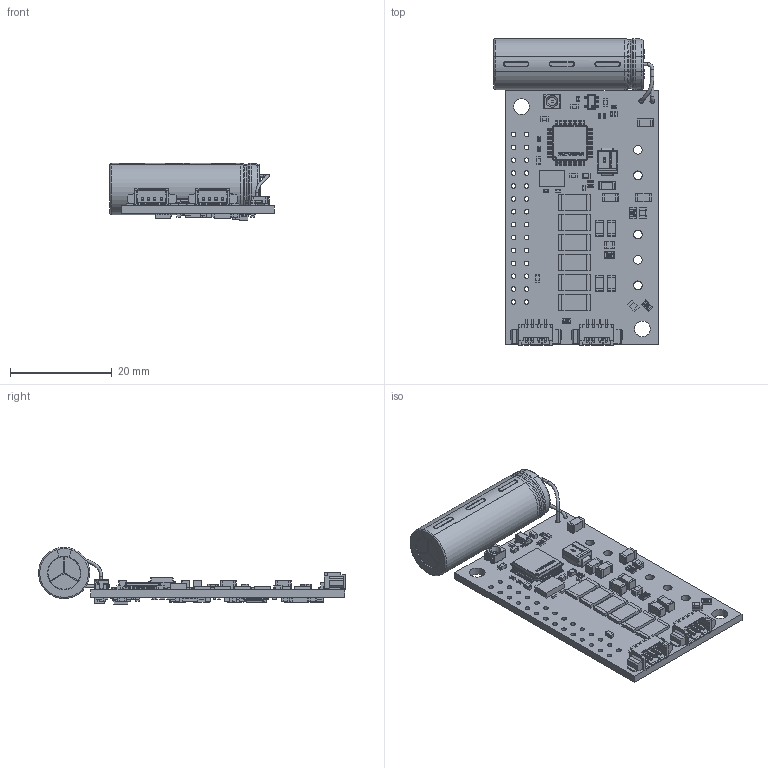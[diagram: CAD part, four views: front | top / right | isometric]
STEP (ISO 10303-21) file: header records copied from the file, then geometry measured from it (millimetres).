
FILE_DESCRIPTION(('Open CASCADE Model'),'2;1');
FILE_NAME('Open CASCADE Shape Model','2023-10-25T15:47:10',('Author'),( 'Open CASCADE'),'Open CASCADE STEP processor 6.8','Open CASCADE 6.8' ,'Unknown');
FILE_SCHEMA(('AUTOMOTIVE_DESIGN { 1 0 10303 214 1 1 1 1 }'));
Length unit declared in the file: millimetre
Products named in the file (160): PCB; Board; VD1; User_Library-Osram_Led_PLCC4-1; D8; User_Library-DIOM5539X24; C34; User_Library-SMD_CAPACITOR0402; L2; User_Library-1239AS-H; C33; C24; User_Library-SMD_CAPACITOR0603; R5; 6122573440; Extruded; 6122573248; C13; R45; User_Library-RESC2012X05N; R44; R43; RESC1005X04N; R42; R41; R37; R36; R35; R34; R33; R32; R31; R19; Q6; 6122572672; Cylinder; 6122572480; Q5; Q4; L1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
Assembly tree (280 placements, depth 4):
  PCB
    Board
    VD1
      User_Library-Osram_Led_PLCC4-1
    D8
      User_Library-DIOM5539X24
    C34
      User_Library-SMD_CAPACITOR0402
    L2
      User_Library-1239AS-H
    C33
      User_Library-SMD_CAPACITOR0402
    C24
      User_Library-SMD_CAPACITOR0603
    R5
      6122573440
        Extruded
      6122573248  x2
        Extruded
    C13
      User_Library-SMD_CAPACITOR0603
    R45
      User_Library-RESC2012X05N
    R44
      User_Library-RESC2012X05N
    R43
      RESC1005X04N
    R42
      RESC1005X04N
    R41
      RESC1005X04N
    R37
      RESC1005X04N
    R36
      RESC1005X04N
    R35
      RESC1005X04N
    R34
      RESC1005X04N
    R33
      RESC1005X04N
    R32
      RESC1005X04N
    R31
      RESC1005X04N
    R19
      RESC1005X04N
    Q6
      6122572672
        Cylinder
      6122572480
        Extruded
    Q5
      6122572672
        Cylinder
      6122572480
        Extruded
    Q4
      6122572672
        Cylinder
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Bounding box: 32.35 x 60.47 x 11.29 mm (x, y, z)
Volume: 5142.1 mm3; surface area: 7175.1 mm2
Topology: 238 solids, 238 shells, 10180 faces, 27686 edges, 17710 vertices
Faces by surface type: plane 4902, cylinder 3071, bspline 1680, sphere 346, torus 157, cone 24
Full cylindrical faces by diameter (mm): 0.6 x9, 0.8 x8, 0.9 x30, 1.7 x5, 3.1 x2
Entity records: 141017 total; most frequent: CARTESIAN_POINT 34613, ORIENTED_EDGE 18258, DIRECTION 16092, EDGE_CURVE 9129, VERTEX_POINT 5875, LINE 5814, VECTOR 5814, AXIS2_PLACEMENT_3D 5139
